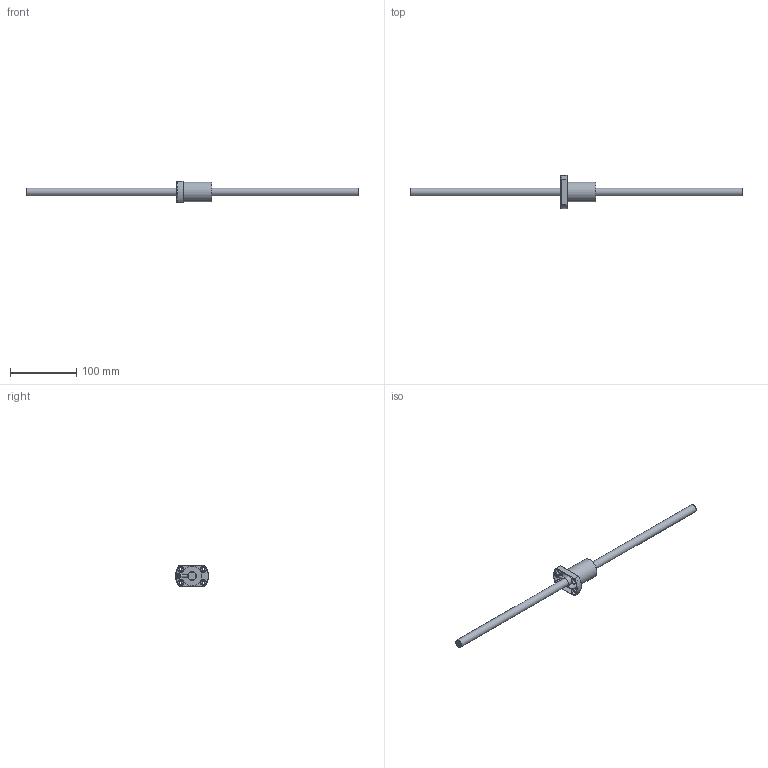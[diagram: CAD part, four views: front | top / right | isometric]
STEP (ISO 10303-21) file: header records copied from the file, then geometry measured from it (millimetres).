
FILE_DESCRIPTION (( 'STEP AP203' ), '1' );
FILE_NAME ('SFV01210D-2.7.step', '2024-05-20T03:36:55', ( '' ), ( '' ), 'SwSTEP 2.0', 'SolidWorks 2022', '' );
FILE_SCHEMA (( 'CONFIG_CONTROL_DESIGN' ));
Length unit declared in the file: millimetre
Products named in the file (1): SFV01210D-2.7
Bounding box: 500 x 50 x 32 mm (x, y, z)
Volume: 92537.1 mm3; surface area: 30306.8 mm2
Topology: 2 solids, 2 shells, 56 faces, 130 edges, 79 vertices
Faces by surface type: cylinder 21, plane 16, cone 9, bspline 5, torus 5
Full cylindrical faces by diameter (mm): 4 x1, 4.5 x4, 5 x6, 8 x4, 12 x1, 13.5 x1, 30 x1
Entity records: 3095 total; most frequent: CARTESIAN_POINT 2069, DIRECTION 198, ORIENTED_EDGE 158, AXIS2_PLACEMENT_3D 91, EDGE_LOOP 86, EDGE_CURVE 79, FACE_OUTER_BOUND 64, VERTEX_POINT 59
